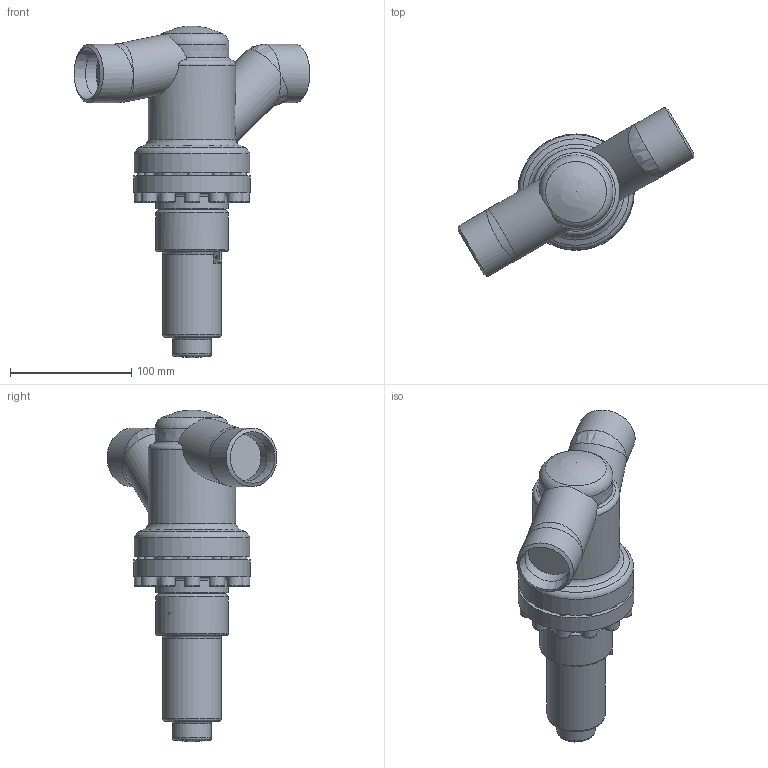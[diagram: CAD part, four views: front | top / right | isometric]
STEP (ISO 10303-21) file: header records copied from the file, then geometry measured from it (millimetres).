
FILE_DESCRIPTION((''),'2;1');
FILE_NAME('Y:\Home\AWP_CAD (2D+3D-Ansicht)\CAD Drawings\3D_STEP\AVR D AE\AVR D AE 26G00-040 PS40.stp','2012-08-27T09:54:44',('Lempe.Ha'),(''),'Autodesk Inventor 2012','Autodesk Inventor 2012','');
FILE_SCHEMA(('AUTOMOTIVE_DESIGN { 1 0 10303 214 1 1 1 1 }'));
Length unit declared in the file: millimetre
Products named in the file (5): 26G00F14A5A30000; 26300K15.5141004; 16402.15.3180003; 16G00K14.5034004; DIN 912 - ersetzt durch DIN EN ISO 4762 M8 x 25
Assembly tree (15 placements, depth 2):
  26G00F14A5A30000
    26300K15.5141004
    16402.15.3180003
    16G00K14.5034004
    DIN 912 - ersetzt durch DIN EN ISO 4762 M8 x 25  x12
Bounding box: 194.46 x 140.15 x 273.5 mm (x, y, z)
Volume: 717231.4 mm3; surface area: 184828.8 mm2
Topology: 15 solids, 15 shells, 347 faces, 774 edges, 470 vertices
Faces by surface type: plane 138, cylinder 89, cone 63, torus 43, bspline 14
Full cylindrical faces by diameter (mm): 2 x1, 6.647 x12, 8 x12, 9 x12, 13 x12, 20.5 x1, 22 x1, 27 x1, 31 x1, 32 x1, 34 x1, 38 x2, 39 x2, 44 x1, 48 x2, 48.3 x4, 48.752 x1, 49.5 x1, 51 x1, 51.1 x1, 52 x1, 52.5 x2, 53 x1, 55 x1, 60 x2, 62 x3, 64 x1, 70 x2, 72 x1, 95 x1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
Entity records: 4915 total; most frequent: CARTESIAN_POINT 1245, DIRECTION 802, ORIENTED_EDGE 494, AXIS2_PLACEMENT_3D 388, EDGE_LOOP 349, EDGE_CURVE 247, VERTEX_POINT 205, CIRCLE 192
